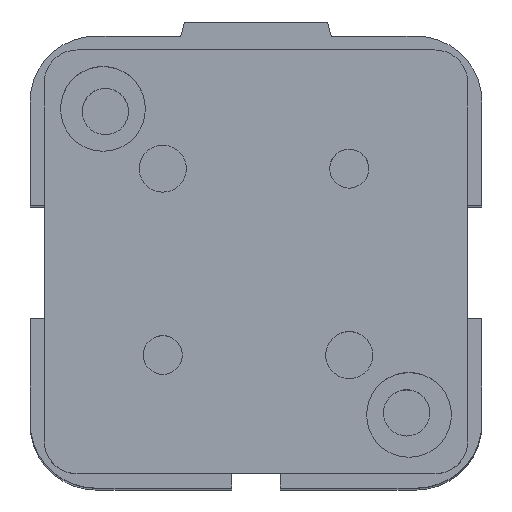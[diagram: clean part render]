
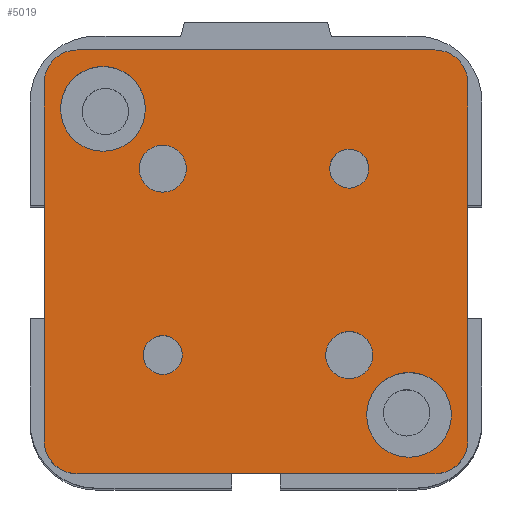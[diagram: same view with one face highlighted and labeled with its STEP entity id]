
A CAD part, top view. The second image highlights one B-rep face of the part: STEP entity #5019.
In plain terms, the highlighted planar face has unit normal (0, 0, 1) as drawn and (0, -1, 0) by its records, which use the part's own axes.
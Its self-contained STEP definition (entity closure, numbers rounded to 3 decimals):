
#4397=CARTESIAN_POINT('',(-7.833,-10.0,-9.9));
#4398=VERTEX_POINT('',#4397);
#4399=CARTESIAN_POINT('',(-9.9,-10.0,-9.9));
#4400=DIRECTION('',(0.0,1.0,0.0));
#4401=DIRECTION('',(1.0,0.0,0.0));
#4402=AXIS2_PLACEMENT_3D('',#4399,#4400,#4401);
#4403=CIRCLE('',#4402,2.067);
#4404=EDGE_CURVE('',#4398,#4398,#4403,.T.);
#4446=CARTESIAN_POINT('',(11.967,-10.0,9.9));
#4447=VERTEX_POINT('',#4446);
#4448=CARTESIAN_POINT('',(9.9,-10.0,9.9));
#4449=DIRECTION('',(0.0,1.0,0.0));
#4450=DIRECTION('',(1.0,0.0,0.0));
#4451=AXIS2_PLACEMENT_3D('',#4448,#4449,#4450);
#4452=CIRCLE('',#4451,2.067);
#4453=EDGE_CURVE('',#4447,#4447,#4452,.T.);
#4495=CARTESIAN_POINT('',(12.4,-10.0,-9.9));
#4496=VERTEX_POINT('',#4495);
#4497=CARTESIAN_POINT('',(9.9,-10.0,-9.9));
#4498=DIRECTION('',(0.0,1.0,0.0));
#4499=DIRECTION('',(1.0,0.0,0.0));
#4500=AXIS2_PLACEMENT_3D('',#4497,#4498,#4499);
#4501=CIRCLE('',#4500,2.5);
#4502=EDGE_CURVE('',#4496,#4496,#4501,.T.);
#4544=CARTESIAN_POINT('',(-7.4,-10.0,9.9));
#4545=VERTEX_POINT('',#4544);
#4546=CARTESIAN_POINT('',(-9.9,-10.0,9.9));
#4547=DIRECTION('',(0.0,1.0,0.0));
#4548=DIRECTION('',(1.0,0.0,0.0));
#4549=AXIS2_PLACEMENT_3D('',#4546,#4547,#4548);
#4550=CIRCLE('',#4549,2.5);
#4551=EDGE_CURVE('',#4545,#4545,#4550,.T.);
#4593=CARTESIAN_POINT('',(20.75,-10.0,-16.25));
#4594=VERTEX_POINT('',#4593);
#4595=CARTESIAN_POINT('',(16.25,-10.0,-16.25));
#4596=DIRECTION('',(0.0,1.0,0.0));
#4597=DIRECTION('',(1.0,0.0,0.0));
#4598=AXIS2_PLACEMENT_3D('',#4595,#4596,#4597);
#4599=CIRCLE('',#4598,4.5);
#4600=EDGE_CURVE('',#4594,#4594,#4599,.T.);
#4642=CARTESIAN_POINT('',(-11.75,-10.0,16.25));
#4643=VERTEX_POINT('',#4642);
#4644=CARTESIAN_POINT('',(-16.25,-10.0,16.25));
#4645=DIRECTION('',(0.0,1.0,0.0));
#4646=DIRECTION('',(1.0,0.0,0.0));
#4647=AXIS2_PLACEMENT_3D('',#4644,#4645,#4646);
#4648=CIRCLE('',#4647,4.5);
#4649=EDGE_CURVE('',#4643,#4643,#4648,.T.);
#4795=CARTESIAN_POINT('',(-19.0,-10.0,22.5));
#4796=VERTEX_POINT('',#4795);
#4797=CARTESIAN_POINT('',(19.,-10.0,22.5));
#4798=VERTEX_POINT('',#4797);
#4799=CARTESIAN_POINT('',(-19.0,-10.0,22.5));
#4800=DIRECTION('',(1.0,0.0,0.0));
#4801=VECTOR('',#4800,38.0);
#4802=LINE('',#4799,#4801);
#4803=EDGE_CURVE('',#4796,#4798,#4802,.T.);
#4826=CARTESIAN_POINT('',(22.5,-10.0,19.));
#4827=VERTEX_POINT('',#4826);
#4828=CARTESIAN_POINT('',(19.0,-10.0,19.));
#4829=DIRECTION('',(0.0,1.0,0.0));
#4830=DIRECTION('',(-1.0,0.0,0.0));
#4831=AXIS2_PLACEMENT_3D('',#4828,#4829,#4830);
#4832=CIRCLE('',#4831,3.5);
#4833=EDGE_CURVE('',#4798,#4827,#4832,.T.);
#4851=CARTESIAN_POINT('',(22.5,-10.0,-19.));
#4852=VERTEX_POINT('',#4851);
#4853=CARTESIAN_POINT('',(22.5,-10.0,19.));
#4854=DIRECTION('',(0.0,0.0,-1.0));
#4855=VECTOR('',#4854,38.);
#4856=LINE('',#4853,#4855);
#4857=EDGE_CURVE('',#4827,#4852,#4856,.T.);
#4875=CARTESIAN_POINT('',(19.0,-10.0,-22.5));
#4876=VERTEX_POINT('',#4875);
#4877=CARTESIAN_POINT('',(19.0,-10.0,-19.));
#4878=DIRECTION('',(0.0,1.0,0.0));
#4879=DIRECTION('',(0.0,0.0,1.0));
#4880=AXIS2_PLACEMENT_3D('',#4877,#4878,#4879);
#4881=CIRCLE('',#4880,3.5);
#4882=EDGE_CURVE('',#4852,#4876,#4881,.T.);
#4900=CARTESIAN_POINT('',(-19.0,-10.0,-22.5));
#4901=VERTEX_POINT('',#4900);
#4902=CARTESIAN_POINT('',(19.0,-10.0,-22.5));
#4903=DIRECTION('',(-1.0,0.0,0.0));
#4904=VECTOR('',#4903,38.0);
#4905=LINE('',#4902,#4904);
#4906=EDGE_CURVE('',#4876,#4901,#4905,.T.);
#4924=CARTESIAN_POINT('',(-22.5,-10.0,-19.0));
#4925=VERTEX_POINT('',#4924);
#4926=CARTESIAN_POINT('',(-19.,-10.0,-19.0));
#4927=DIRECTION('',(0.0,1.0,0.0));
#4928=DIRECTION('',(1.0,0.0,0.0));
#4929=AXIS2_PLACEMENT_3D('',#4926,#4927,#4928);
#4930=CIRCLE('',#4929,3.5);
#4931=EDGE_CURVE('',#4901,#4925,#4930,.T.);
#4949=CARTESIAN_POINT('',(-22.5,-10.0,19.0));
#4950=VERTEX_POINT('',#4949);
#4951=CARTESIAN_POINT('',(-22.5,-10.0,-19.0));
#4952=DIRECTION('',(0.0,0.0,1.0));
#4953=VECTOR('',#4952,38.0);
#4954=LINE('',#4951,#4953);
#4955=EDGE_CURVE('',#4925,#4950,#4954,.T.);
#4973=CARTESIAN_POINT('',(-19.0,-10.0,19.0));
#4974=DIRECTION('',(0.0,1.0,0.0));
#4975=DIRECTION('',(0.0,0.0,-1.0));
#4976=AXIS2_PLACEMENT_3D('',#4973,#4974,#4975);
#4977=CIRCLE('',#4976,3.5);
#4978=EDGE_CURVE('',#4950,#4796,#4977,.T.);
#4986=CARTESIAN_POINT('',(0.,-10.0,0.));
#4987=DIRECTION('',(0.0,1.0,0.0));
#4988=DIRECTION('',(0.0,0.0,1.0));
#4989=AXIS2_PLACEMENT_3D('',#4986,#4987,#4988);
#4990=PLANE('',#4989);
#4991=ORIENTED_EDGE('',*,*,#4803,.F.);
#4992=ORIENTED_EDGE('',*,*,#4978,.F.);
#4993=ORIENTED_EDGE('',*,*,#4955,.F.);
#4994=ORIENTED_EDGE('',*,*,#4931,.F.);
#4995=ORIENTED_EDGE('',*,*,#4906,.F.);
#4996=ORIENTED_EDGE('',*,*,#4882,.F.);
#4997=ORIENTED_EDGE('',*,*,#4857,.F.);
#4998=ORIENTED_EDGE('',*,*,#4833,.F.);
#4999=EDGE_LOOP('',(#4991,#4992,#4993,#4994,#4995,#4996,#4997,#4998));
#5000=FACE_OUTER_BOUND('',#4999,.T.);
#5001=ORIENTED_EDGE('',*,*,#4404,.T.);
#5002=EDGE_LOOP('',(#5001));
#5003=FACE_BOUND('',#5002,.T.);
#5004=ORIENTED_EDGE('',*,*,#4453,.T.);
#5005=EDGE_LOOP('',(#5004));
#5006=FACE_BOUND('',#5005,.T.);
#5007=ORIENTED_EDGE('',*,*,#4502,.T.);
#5008=EDGE_LOOP('',(#5007));
#5009=FACE_BOUND('',#5008,.T.);
#5010=ORIENTED_EDGE('',*,*,#4551,.T.);
#5011=EDGE_LOOP('',(#5010));
#5012=FACE_BOUND('',#5011,.T.);
#5013=ORIENTED_EDGE('',*,*,#4600,.T.);
#5014=EDGE_LOOP('',(#5013));
#5015=FACE_BOUND('',#5014,.T.);
#5016=ORIENTED_EDGE('',*,*,#4649,.T.);
#5017=EDGE_LOOP('',(#5016));
#5018=FACE_BOUND('',#5017,.T.);
#5019=ADVANCED_FACE('',(#5000,#5003,#5006,#5009,#5012,#5015,#5018),#4990,.F.);
